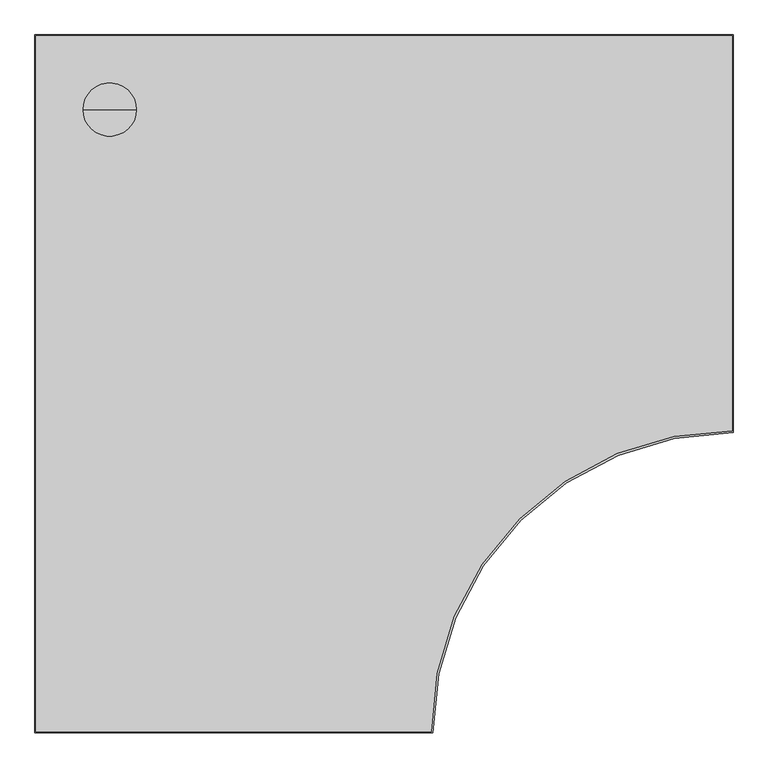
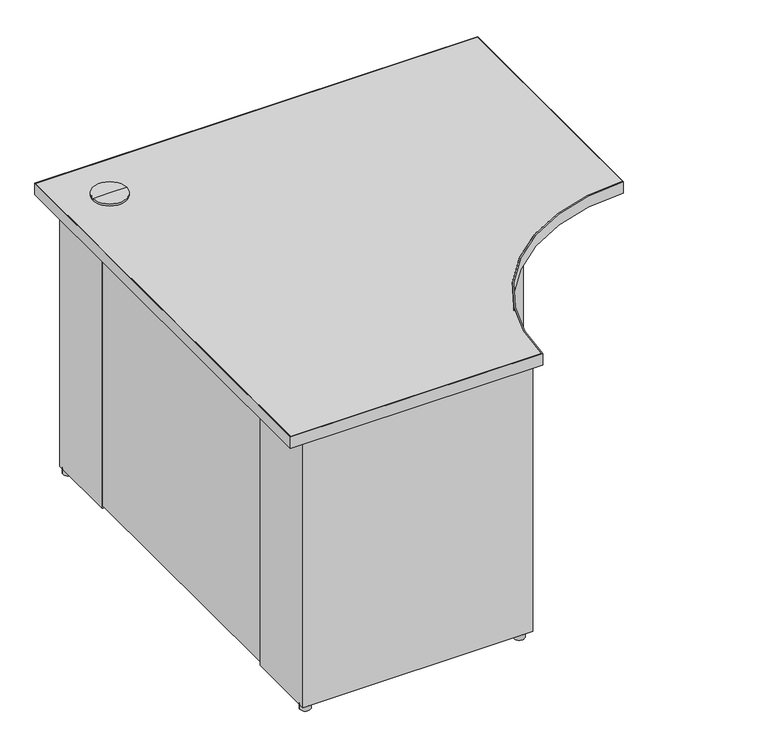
"""IFC4 building model written with IfcOpenShell, lengths in millimetres: furniture geometry, Steelcase - Kick Freestanding - Desk - Curve Corner - Full Height Modesty Panel : 24D x 42W - Left Full End Panel/Right Clear Access Support - LPL."""

from ifc_helpers import new_model, si_unit, point, frame, frame_2d, origin, origin_with_axes, place, context, project, spatial, polyline, circle_curve, trimmed, segment, composite_curve, outline, extrude, source, transform, mapped, element, save
from ifc_brep_helpers import plane_surface, cylinder_surface, advanced_brep


def furniture_378d0f8e(model_context):
    return source(origin(), model_context, "Body", "SolidModel", [
        extrude(outline(composite_curve([segment(trimmed(circle_curve(frame_2d((566.7971133, -1039.8759893)), 12.7), [point((554.0971133, -1039.8759893))], [point((579.4971133, -1039.8759893))], False, "CARTESIAN"), True, "CONTINUOUS"), segment(trimmed(circle_curve(frame_2d((566.7971133, -1039.8759893)), 12.7), [point((579.4971133, -1039.8759893))], [point((554.0971133, -1039.8759893))], False, "CARTESIAN"), True, "CONTINUOUS")], self_intersect=False)), origin_with_axes(), (0.0, 0.0, 1.0), 12.446),
        extrude(outline(polyline([(874.0393822, -63.5), (874.0393822, -38.1), (1051.8393579, -38.1), (1051.8393579, -215.8999939), (1025.9313463, -215.8999939), (1025.9313463, -63.5), (874.0393822, -63.5)])), frame((0.0, 0.0, 12.446), z_axis=(0.0, 0.0, 1.0), x_axis=(1.0, 0.0, 0.0)), (0.0, 0.0, 1.0), 682.498),
        extrude(outline(polyline([(215.8999939, -63.5), (63.5, -63.5), (63.5, -215.8999939), (38.1, -215.8999939), (38.1, -38.1), (215.8999939, -38.1), (215.8999939, -63.5)])), frame((0.0, 0.0, 12.446), z_axis=(0.0, 0.0, 1.0), x_axis=(1.0, 0.0, 0.0)), (0.0, 0.0, 1.0), 682.498),
        extrude(outline(polyline([(63.5, -875.0300194), (63.5, -1027.4300194), (161.3662, -1027.4300194), (161.3662, -1047.0895822), (261.0866, -1047.0895822), (261.0866, -1027.4300194), (369.824, -1027.4300194), (369.824, -1047.0895822), (469.5444, -1047.0895822), (469.5444, -1027.4300194), (592.582, -1027.4300194), (592.582, -1052.8299952), (38.1, -1052.8299952), (38.1, -875.0300194), (63.5, -875.0300194)])), frame((0.0, 0.0, 12.446), z_axis=(0.0, 0.0, 1.0), x_axis=(1.0, 0.0, 0.0)), (0.0, 0.0, 1.0), 682.498),
        advanced_brep(
        [(114.3, -114.3, 728.98), (154.94, -114.3, 728.98), (73.66, -114.3, 728.98), (76.1699693, -114.3, 694.944), (152.4300307, -114.3, 694.944), (114.3, -114.3, 694.944), (76.1699693, -114.3, 723.9), (152.4300307, -114.3, 723.9), (73.66, -114.3, 723.9), (154.94, -114.3, 723.9)],
        [
            (0, 1),
            (1, 2, circle_curve(frame((114.3, -114.3, 728.98), z_axis=(0.0, 0.0, 1.0), x_axis=(1.0, 0.0, 0.0)), 40.64)),
            (2, 0),
            (2, 1, circle_curve(frame((114.3, -114.3, 728.98), z_axis=(0.0, 0.0, 1.0), x_axis=(1.0, 0.0, 0.0)), 40.64)),
            (3, 4, circle_curve(frame((114.3, -114.3, 694.944), z_axis=(0.0, 0.0, -1.0), x_axis=(1.0, 0.0, 0.0)), 38.1300307)),
            (4, 5),
            (5, 3),
            (4, 3, circle_curve(frame((114.3, -114.3, 694.944), z_axis=(0.0, 0.0, -1.0), x_axis=(1.0, 0.0, 0.0)), 38.1300307)),
            (6, 7, circle_curve(frame((114.3, -114.3, 723.9), z_axis=(0.0, 0.0, -1.0), x_axis=(1.0, 0.0, 0.0)), 38.1300307)),
            (7, 4),
            (3, 6),
            (7, 6, circle_curve(frame((114.3, -114.3, 723.9), z_axis=(0.0, 0.0, -1.0), x_axis=(1.0, 0.0, 0.0)), 38.1300307)),
            (8, 9, circle_curve(frame((114.3, -114.3, 723.9), z_axis=(0.0, 0.0, -1.0), x_axis=(1.0, 0.0, 0.0)), 40.64)),
            (9, 7),
            (6, 8),
            (9, 8, circle_curve(frame((114.3, -114.3, 723.9), z_axis=(0.0, 0.0, -1.0), x_axis=(1.0, 0.0, 0.0)), 40.64)),
            (1, 9),
            (8, 2),
        ],
        [
            plane_surface(frame((114.3, -114.3, 728.98), z_axis=(0.0, 0.0, 1.0), x_axis=(1.0, 0.0, 0.0))),
            plane_surface(frame((114.3, -114.3, 694.944), z_axis=(0.0, 0.0, -1.0), x_axis=(1.0, 0.0, 0.0))),
            cylinder_surface(frame((114.3, -114.3, 728.98), z_axis=(0.0, 0.0, 1.0), x_axis=(1.0, 0.0, 0.0)), 38.1300307),
            plane_surface(frame((114.3, -114.3, 723.9), z_axis=(0.0, 0.0, -1.0), x_axis=(1.0, 0.0, 0.0))),
            cylinder_surface(frame((114.3, -114.3, 728.98), z_axis=(0.0, 0.0, 1.0), x_axis=(1.0, 0.0, 0.0)), 40.64),
        ],
        [
            (0, [[1, 2, 3]]),
            (0, [[-3, 4, -1]]),
            (1, [[5, 6, 7]]),
            (1, [[8, -7, -6]]),
            (2, [[9, 10, -5, 11]]),
            (2, [[12, -11, -8, -10]]),
            (3, [[13, 14, -9, 15]]),
            (3, [[16, -15, -12, -14]]),
            (4, [[-2, 17, -13, 18]]),
            (4, [[-4, -18, -16, -17]]),
        ],
    ),
        extrude(outline(composite_curve([segment(trimmed(circle_curve(frame_2d((50.8, -50.8)), 12.7), [point((38.1, -50.8))], [point((63.5, -50.8))], False, "CARTESIAN"), True, "CONTINUOUS"), segment(trimmed(circle_curve(frame_2d((50.8, -50.8)), 12.7), [point((63.5, -50.8))], [point((38.1, -50.8))], False, "CARTESIAN"), True, "CONTINUOUS")], self_intersect=False)), origin_with_axes(), (0.0, 0.0, 1.0), 12.446),
        extrude(outline(composite_curve([segment(trimmed(circle_curve(frame_2d((50.8, -1040.1300073)), 12.7484998), [point((38.0515002, -1040.1300073))], [point((63.5484998, -1040.1300073))], False, "CARTESIAN"), True, "CONTINUOUS"), segment(trimmed(circle_curve(frame_2d((50.8, -1040.1300073)), 12.7484998), [point((63.5484998, -1040.1300073))], [point((38.0515002, -1040.1300073))], False, "CARTESIAN"), True, "CONTINUOUS")], self_intersect=False)), origin_with_axes(), (0.0, 0.0, 1.0), 12.446),
        extrude(outline(composite_curve([segment(trimmed(circle_curve(frame_2d((1038.8853521, -50.8)), 12.7), [point((1026.1853521, -50.8))], [point((1051.5853521, -50.8))], False, "CARTESIAN"), True, "CONTINUOUS"), segment(trimmed(circle_curve(frame_2d((1038.8853521, -50.8)), 12.7), [point((1051.5853521, -50.8))], [point((1026.1853521, -50.8))], False, "CARTESIAN"), True, "CONTINUOUS")], self_intersect=False)), origin_with_axes(), (0.0, 0.0, 1.0), 12.446),
        extrude(outline(polyline([(63.5, -215.8999939), (63.5, -875.0300194), (38.1, -875.0300194), (38.1, -215.8999939), (63.5, -215.8999939)])), frame((0.0, 0.0, 20.828), z_axis=(0.0, 0.0, 1.0), x_axis=(1.0, 0.0, 0.0)), (0.0, 0.0, 1.0), 674.116),
        extrude(outline(polyline([(874.0393822, -38.1), (874.0393822, -63.5), (215.8999939, -63.5), (215.8999939, -38.1), (874.0393822, -38.1)])), frame((0.0, 0.0, 20.828), z_axis=(0.0, 0.0, 1.0), x_axis=(1.0, 0.0, 0.0)), (0.0, 0.0, 1.0), 674.116),
        extrude(outline(composite_curve([segment(polyline([(0.9906, -1065.8093628), (0.9906, -0.9906), (1065.8093628, -0.9906), (1065.8093628, -605.3354109)]), True, "CONTINUOUS"), segment(trimmed(circle_curve(frame_2d((1064.5393458, -1064.5393458)), 459.2056912), [point((1065.8093628, -605.3354109))], [point((605.3354109, -1065.8093628))], True, "CARTESIAN"), True, "CONTINUOUS"), segment(polyline([(605.3354109, -1065.8093628), (0.9906, -1065.8093628)]), True, "CONTINUOUS")], self_intersect=False)), frame((0.0, 0.0, 694.944), z_axis=(0.0, 0.0, 1.0), x_axis=(1.0, 0.0, 0.0)), (0.0, 0.0, 1.0), 28.956),
        extrude(outline(composite_curve([segment(polyline([(1066.8, 0.0), (1066.8, -608.332629)]), True, "CONTINUOUS"), segment(trimmed(circle_curve(frame_2d((1065.529983, -1065.529983)), 457.199118), [point((1066.8, -608.332629))], [point((608.332629, -1066.8))], True, "CARTESIAN"), True, "CONTINUOUS"), segment(polyline([(608.332629, -1066.8), (0.0, -1066.8), (0.0, 0.0), (1066.8, 0.0)]), True, "CONTINUOUS")], self_intersect=False), holes=[composite_curve([segment(polyline([(1065.8093628, -0.9906), (0.9906, -0.9906), (0.9906, -1065.8093628), (605.3354109, -1065.8093628)]), True, "CONTINUOUS"), segment(trimmed(circle_curve(frame_2d((1064.5393458, -1064.5393458)), 459.2056912), [point((605.3354109, -1065.8093628))], [point((1065.8093628, -605.3354109))], False, "CARTESIAN"), True, "CONTINUOUS"), segment(polyline([(1065.8093628, -605.3354109), (1065.8093628, -0.9906)]), True, "CONTINUOUS")], self_intersect=False)]), frame((0.0, 0.0, 694.944), z_axis=(0.0, 0.0, 1.0), x_axis=(1.0, 0.0, 0.0)), (0.0, 0.0, 1.0), 28.956),
    ])


if __name__ == "__main__":
    model = new_model("IFC4")
    model_context = context("Model", 3, world=origin())
    ifc_project = project(units=[si_unit("LENGTHUNIT", "METRE", prefix="MILLI")], contexts=[model_context])
    site = spatial("IfcSite", under=ifc_project)
    building = spatial("IfcBuilding", under=site)
    placement = place(None, origin())
    furniture_shape = furniture_378d0f8e(model_context)
    element("IfcFurniture", 1, ObjectType="Steelcase - Kick Freestanding - Desk - Curve Corner - Full Height Modesty Panel : 24D x 42W - Left Full End Panel/Right Clear Access Support - LPL", at=placement, inside=building, context=model_context, shape_type="MappedRepresentation", body=[
        mapped(furniture_shape, transform((0.0, 0.0, 0.0), x_axis=(1.0, 0.0, 0.0), y_axis=(0.0, 1.0, 0.0), z_axis=(0.0, 0.0, 1.0))),
    ])
    save(model, "model.ifc")
